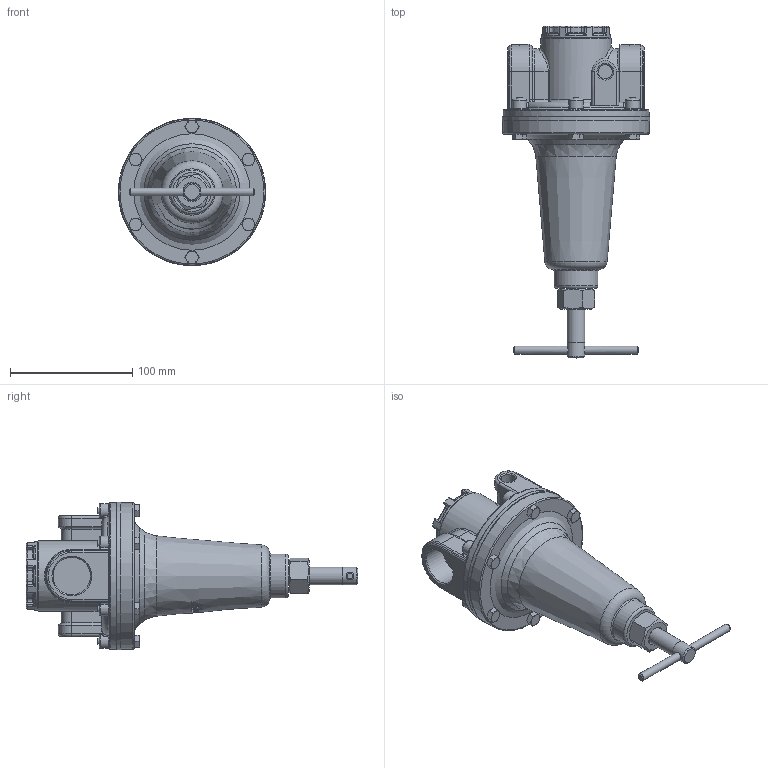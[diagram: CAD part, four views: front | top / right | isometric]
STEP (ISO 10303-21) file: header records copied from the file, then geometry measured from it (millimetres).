
FILE_DESCRIPTION((''),'2;1');
FILE_NAME('F:\AirCom-Produktdokumentation\Druckregler\R119\CAD\CAD AirCom\3D\B-R119-08x.stp','2008-11-03T16:19:29',('Frank Schroers'),(''),'Autodesk Inventor 2008','Autodesk Inventor 2008','');
FILE_SCHEMA(('AUTOMOTIVE_DESIGN { 1 0 10303 214 1 1 1 1 }'));
Length unit declared in the file: millimetre
Products named in the file (4): B-R119-08x; ISO 4775 M16; Sechskantblechschraube mit gestauchtem Kopf - Form F - Metrisch M6x1 x 30
Assembly tree (8 placements, depth 2):
  B-R119-08x
    B-R119-08x
    ISO 4775 M16
    Sechskantblechschraube mit gestauchtem Kopf - Form F - Metrisch M6x1 x 30  x6
Bounding box: 121 x 272 x 121 mm (x, y, z)
Volume: 907094.3 mm3; surface area: 93804.3 mm2
Topology: 8 solids, 8 shells, 779 faces, 1812 edges, 1040 vertices
Faces by surface type: plane 216, cylinder 197, bspline 171, cone 106, torus 73, sphere 16
Full cylindrical faces by diameter (mm): 2.049 x1, 4.767 x1, 6 x12, 6.5 x2, 11.6 x2, 11.8 x2, 14.2 x1, 14.5 x1, 30.6 x2, 36 x1, 40 x1, 56.5 x1, 58 x1, 120 x2, 121 x1
Entity records: 30399 total; most frequent: CARTESIAN_POINT 16127, DIRECTION 2997, ORIENTED_EDGE 2922, EDGE_CURVE 1461, AXIS2_PLACEMENT_3D 1292, VERTEX_POINT 885, EDGE_LOOP 760, CIRCLE 750
